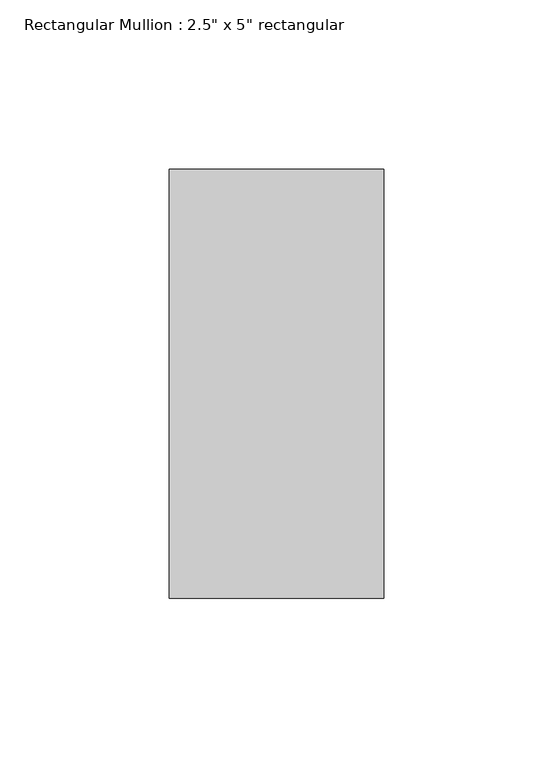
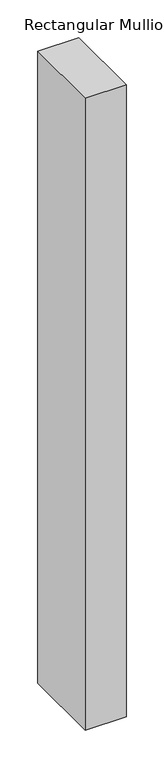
"""IFC4 building model written with IfcOpenShell, lengths in millimetres: member geometry."""

from ifc_helpers import new_model, si_unit, frame, origin, place, context, project, spatial, polyline, outline, extrude, source, transform, mapped, element, save


def member_79ceace6(model_context):
    return source(origin(), model_context, "Body", "SweptSolid", [
        extrude(outline(polyline([(0.0, 63.5), (0.0, -63.5), (-63.5, -63.5), (-63.5, 63.5), (0.0, 63.5)])), frame((0.0, 0.0, -1028.7), z_axis=(0.0, 0.0, 1.0), x_axis=(1.0, 0.0, 0.0)), (0.0, 0.0, 1.0), 1028.7),
    ])


if __name__ == "__main__":
    model = new_model("IFC4")
    model_context = context("Model", 3, world=origin())
    ifc_project = project(units=[si_unit("LENGTHUNIT", "METRE", prefix="MILLI")], contexts=[model_context])
    site = spatial("IfcSite", under=ifc_project)
    building = spatial("IfcBuilding", under=site)
    placement = place(None, origin())
    member_shape = member_79ceace6(model_context)
    element("IfcMember", 1, ObjectType="Rectangular Mullion : 2.5\" x 5\" rectangular", at=placement, inside=building, context=model_context, shape_type="MappedRepresentation", body=[
        mapped(member_shape, transform((0.0, 0.0, 0.0), x_axis=(1.0, 0.0, 0.0), y_axis=(0.0, 1.0, 0.0), z_axis=(0.0, 0.0, 1.0))),
    ])
    save(model, "model.ifc")
